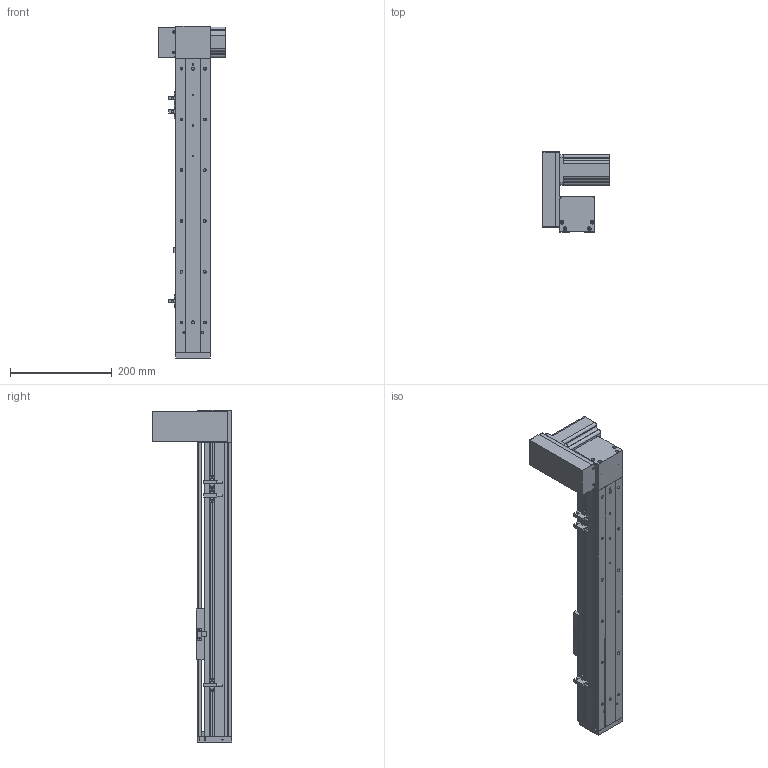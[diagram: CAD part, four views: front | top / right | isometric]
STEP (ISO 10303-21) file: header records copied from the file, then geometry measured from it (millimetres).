
FILE_DESCRIPTION (( 'STEP AP203' ), '1' );
FILE_NAME ('ML68-S400-UR.STEP', '2016-08-05T00:50:45', ( '' ), ( '' ), 'SwSTEP 2.0', 'SolidWorks 2014', '' );
FILE_SCHEMA (( 'CONFIG_CONTROL_DESIGN' ));
Length unit declared in the file: millimetre
Products named in the file (12): 60換覜結え; 換覜ん; ML68傷啣; 葩璃 ML68菁釱^ML68-S400-UR; ML68雄赽釱; 三协电机MH201N2_預設; QS68左右折电机板罩子; ML68滅鳥啣盓傅輸; QS68酘衵殏萇儂啣; ML68-S400-UR; ML68-BL傷啣; ML68奻裔^ML68-S400-UR
Assembly tree (13 placements, depth 2):
  ML68-S400-UR
    葩璃 ML68菁釱^ML68-S400-UR
    ML68奻裔^ML68-S400-UR
    ML68傷啣
    ML68-BL傷啣
    60換覜結え
    換覜ん  x3
    三协电机MH201N2_預設
    ML68雄赽釱
    QS68酘衵殏萇儂啣
    QS68左右折电机板罩子
    ML68滅鳥啣盓傅輸
Bounding box: 133.5 x 157 x 654 mm (x, y, z)
Volume: 1431259.8 mm3; surface area: 508378.2 mm2
Topology: 13 solids, 13 shells, 887 faces, 2426 edges, 1537 vertices
Faces by surface type: cylinder 402, plane 389, cone 96
Entity records: 27982 total; most frequent: CARTESIAN_POINT 5278, DIRECTION 4592, ORIENTED_EDGE 4352, EDGE_CURVE 2176, AXIS2_PLACEMENT_3D 1655, VERTEX_POINT 1425, VECTOR 1282, LINE 1282
